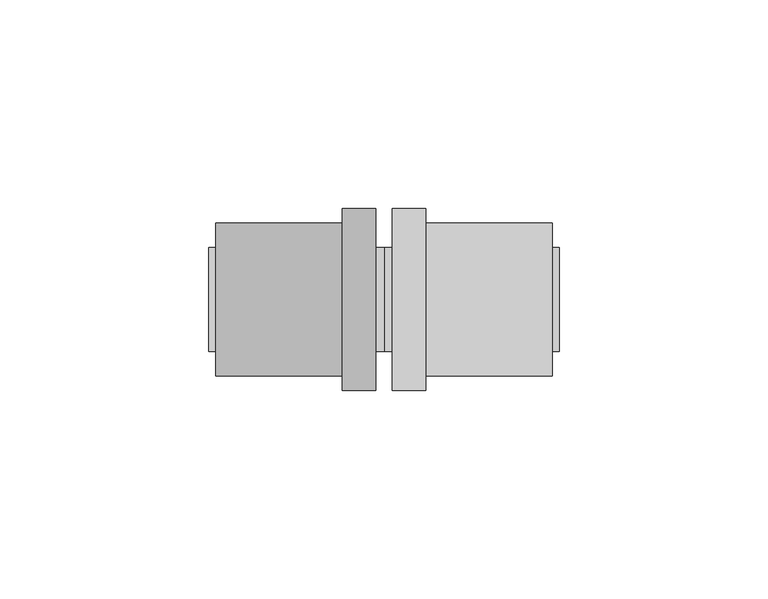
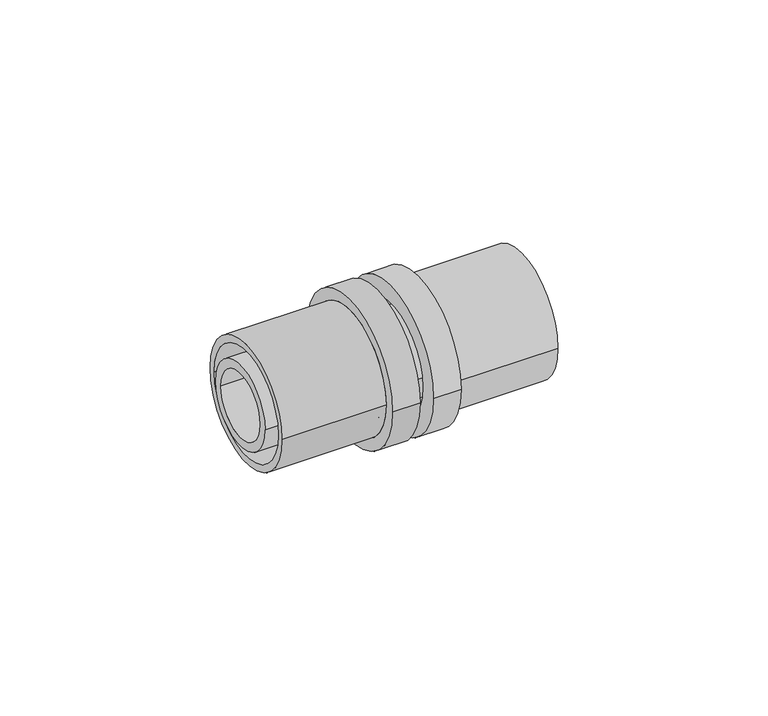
"""IFC4 building model written with IfcOpenShell, lengths in millimetres: pipe fitting geometry, FASTLOC_Coupling equal EX+ : FSL C EX AT."""

import ifcopenshell
import ifcopenshell.guid

model = None  # the IFC model being written
_history = None  # IfcOwnerHistory: only IFC2X3 demands one
_inside = {}  # id of a spatial element -> (the spatial element, [elements in it])
_under = {}  # id of a project, library or spatial element -> (it, [spatial elements below it])
_declared = {}  # id of a project -> (the project, [libraries it declares])
_typed = {}  # id of a type object -> (the type object, [elements of that type])
_made_of = {}  # id of a material, layer set ... -> (it, [elements and type objects made of it])


def new_model(schema):
    """Start an empty IFC model of exactly this schema.

    Asked for "IFC4X3", IfcOpenShell would pick the latest addendum, in which some entities
    have other attributes; the version numbers below select the first issue.
    IFC2X3 requires an IfcOwnerHistory on every rooted entity: one is made here for all.
    """
    global model, _history
    if schema == "IFC4X3":
        model = ifcopenshell.file(schema_version=(4, 3, 0, 0))
    else:
        model = ifcopenshell.file(schema=schema)
    _inside.clear()
    _under.clear()
    _declared.clear()
    _typed.clear()
    _made_of.clear()
    _history = None
    if model.schema == "IFC2X3":
        org = make("IfcOrganization", Name="unknown")
        user = make(
            "IfcPersonAndOrganization",
            ThePerson=make("IfcPerson", FamilyName="unknown"),
            TheOrganization=org,
        )
        app = make(
            "IfcApplication",
            ApplicationDeveloper=org,
            Version="unknown",
            ApplicationFullName="unknown",
            ApplicationIdentifier="unknown",
        )
        _history = make(
            "IfcOwnerHistory",
            OwningUser=user,
            OwningApplication=app,
            ChangeAction="ADDED",
            CreationDate=0,
        )
    return model


def make(cls, **values):
    """One entity of the class cls with the attributes given. An attribute that is None is left unset."""
    return model.create_entity(
        cls, **{name: value for name, value in values.items() if value is not None}
    )


def rooted(cls, **values):
    """An entity with a GlobalId (a new one), such as an element, a storey or a relation."""
    return make(cls, GlobalId=ifcopenshell.guid.new(), OwnerHistory=_history, **values)


def si_unit(unit_type, name, prefix=None):
    """IfcSIUnit, for example si_unit("LENGTHUNIT", "METRE", prefix="MILLI")."""
    return make("IfcSIUnit", UnitType=unit_type, Prefix=prefix, Name=name)


def assignment(units):
    """IfcUnitAssignment: the units of a project."""
    return None if units is None else make("IfcUnitAssignment", Units=units)


def point(xyz):
    """IfcCartesianPoint."""
    return None if xyz is None else make("IfcCartesianPoint", Coordinates=xyz)


def direction(xyz):
    """IfcDirection."""
    return None if xyz is None else make("IfcDirection", DirectionRatios=xyz)


def frame(location, z_axis=None, x_axis=None):
    """IfcAxis2Placement3D, a coordinate frame: its origin and axes. An axis left out is left unset."""
    return make(
        "IfcAxis2Placement3D",
        Location=point(location),
        Axis=direction(z_axis),
        RefDirection=direction(x_axis),
    )


def origin():
    """The frame at (0, 0, 0) with its axes left unset."""
    return frame((0.0, 0.0, 0.0))


def place(relative_to, where):
    """IfcLocalPlacement: puts the frame where relative to a parent placement (None: the world)."""
    return make(
        "IfcLocalPlacement", PlacementRelTo=relative_to, RelativePlacement=where
    )


def context(
    kind, dimensions, precision=None, world=None, true_north=None, identifier=None
):
    """IfcGeometricRepresentationContext, for example the 3D "Model" context."""
    return make(
        "IfcGeometricRepresentationContext",
        ContextIdentifier=identifier,
        ContextType=kind,
        CoordinateSpaceDimension=dimensions,
        Precision=precision,
        WorldCoordinateSystem=world,
        TrueNorth=true_north,
    )


def project(units=None, contexts=None):
    """IfcProject with its units and contexts."""
    return rooted(
        "IfcProject",
        Name="project",
        RepresentationContexts=contexts,
        UnitsInContext=assignment(units),
    )


def spatial(cls, under=None, at=None, **own):
    """A site, building, storey or space (cls), placed at a placement, below another one or the project."""
    s = rooted(cls, ObjectPlacement=at, **own)
    if under is not None:
        _under.setdefault(under.id(), (under, []))[1].append(s)
    return s


def polyline(points):
    """IfcPolyline through the points."""
    return make("IfcPolyline", Points=[point(p) for p in points])


def circle_curve(where, radius):
    """IfcCircle in the frame where."""
    return make("IfcCircle", Position=where, Radius=radius)


def shape(context_of_items, identifier, shape_type, items):
    """IfcShapeRepresentation: the items that make up one representation, for example the "Body"."""
    return make(
        "IfcShapeRepresentation",
        ContextOfItems=context_of_items,
        RepresentationIdentifier=identifier,
        RepresentationType=shape_type,
        Items=items,
    )


def source(mapping_origin, context_of_items, identifier, shape_type, items):
    """IfcRepresentationMap: a shape defined once, which mapped items show again and again."""
    return make(
        "IfcRepresentationMap",
        MappingOrigin=mapping_origin,
        MappedRepresentation=shape(context_of_items, identifier, shape_type, items),
    )


def transform(
    local_origin,
    x_axis=None,
    y_axis=None,
    z_axis=None,
    scale=None,
    scale2=None,
    scale3=None,
    uniform=True,
):
    """IfcCartesianTransformationOperator3D, or its non-uniform kind. x_axis, y_axis, z_axis: its Axis1, 2, 3."""
    if uniform:
        return make(
            "IfcCartesianTransformationOperator3D",
            Axis1=direction(x_axis),
            Axis2=direction(y_axis),
            LocalOrigin=point(local_origin),
            Scale=scale,
            Axis3=direction(z_axis),
        )
    return make(
        "IfcCartesianTransformationOperator3DnonUniform",
        Axis1=direction(x_axis),
        Axis2=direction(y_axis),
        LocalOrigin=point(local_origin),
        Scale=scale,
        Axis3=direction(z_axis),
        Scale2=scale2,
        Scale3=scale3,
    )


def mapped(mapping_source, mapping_target):
    """IfcMappedItem: shows the shape of a source again, moved by a transform."""
    return make(
        "IfcMappedItem", MappingSource=mapping_source, MappingTarget=mapping_target
    )


def made_of(thing, what):
    """Note that an element or type object is made of a material, layer set ...; save() writes the relation."""
    if what is not None:
        _made_of.setdefault(what.id(), (what, []))[1].append(thing)
    return thing


def element(
    cls,
    number,
    at=None,
    inside=None,
    cuts=None,
    type_object=None,
    material=None,
    context=None,
    identifier="Body",
    shape_type=None,
    held_by="IfcProductDefinitionShape",
    body=None,
    shapes=None,
    **own,
):
    """One element of the class cls, such as IfcWall. Its Tag is "e" and its number.

    at: its placement. inside: the storey or other place that contains it. cuts: it is an
    opening in that element (IfcRelVoidsElement). A single representation is given by context,
    identifier, shape_type and body (its items); several are given by shapes. held_by: the class
    of the entity that holds the representations. save() writes the other relations.
    """
    e = rooted(cls, Tag="e%d" % number, ObjectPlacement=at, **own)
    if body is not None:
        shapes = [shape(context, identifier, shape_type, body)]
    if shapes is not None:
        e.Representation = make(held_by, Representations=shapes)
    if inside is not None:
        _inside.setdefault(inside.id(), (inside, []))[1].append(e)
    if cuts is not None:
        rooted(
            "IfcRelVoidsElement", RelatingBuildingElement=cuts, RelatedOpeningElement=e
        )
    if type_object is not None:
        _typed.setdefault(type_object.id(), (type_object, []))[1].append(e)
    return made_of(e, material)


def aggregate(whole, parts):
    """IfcRelAggregates: a whole, such as a stair, and the parts it consists of."""
    return rooted("IfcRelAggregates", RelatingObject=whole, RelatedObjects=parts)


def save(model, path):
    """Write the relations noted so far, then the file.

    IfcRelAggregates (storeys below a building ...), IfcRelContainedInSpatialStructure (elements
    in a storey), IfcRelDefinesByType, IfcRelAssociatesMaterial and IfcRelDeclares: one each for
    every whole, place, type object, material and project.
    """
    for whole, parts in _under.values():
        aggregate(whole, parts)
    for where, things in _inside.values():
        rooted(
            "IfcRelContainedInSpatialStructure",
            RelatedElements=things,
            RelatingStructure=where,
        )
    for kind, things in _typed.values():
        rooted("IfcRelDefinesByType", RelatedObjects=things, RelatingType=kind)
    for what, things in _made_of.values():
        rooted("IfcRelAssociatesMaterial", RelatedObjects=things, RelatingMaterial=what)
    for by, libraries in _declared.values():
        rooted("IfcRelDeclares", RelatingContext=by, RelatedDefinitions=libraries)
    model.write(path)


def plane_surface(at):
    """IfcPlane: the flat surface through the origin of the frame at, square to its z axis."""
    return make("IfcPlane", Position=at)


def cylinder_surface(at, radius):
    """IfcCylindricalSurface: all points at the distance radius from the z axis of the frame at."""
    return make("IfcCylindricalSurface", Position=at, Radius=radius)


def revolved_surface(curve, axis_point, axis_direction):
    """IfcSurfaceOfRevolution: the curve turned about the line through axis_point along axis_direction."""
    return make(
        "IfcSurfaceOfRevolution",
        SweptCurve=make("IfcArbitraryOpenProfileDef", ProfileType="CURVE", Curve=curve),
        AxisPosition=make("IfcAxis1Placement", Location=point(axis_point), Axis=direction(axis_direction)),
    )


def advanced_brep(points, edges, surfaces, faces):
    """IfcAdvancedBrep: a solid bounded by faces that lie on surfaces and meet in shared edges.

    An edge is (start, end): straight between two places in points (the first is 0);
    or (start, end, curve); or (start, end, curve, False) where it runs against its curve.
    A face is (place in surfaces, loops), or (place, loops, False) where it looks against
    its surface's normal. A loop lists edges by number (the first is 1), with a minus sign
    where the edge is run from its end to its start. The first loop is the outer one.
    """
    corners = [point(p) for p in points]
    vertices = [make("IfcVertexPoint", VertexGeometry=c) for c in corners]
    made = []
    for start, end, *more in edges:
        made.append(
            make(
                "IfcEdgeCurve",
                EdgeStart=vertices[start],
                EdgeEnd=vertices[end],
                EdgeGeometry=more[0] if more else make("IfcPolyline", Points=[corners[start], corners[end]]),
                SameSense=more[1] if len(more) > 1 else True,
            )
        )
    hull = []
    for where, loops, *sense in faces:
        bounds = []
        for j, loop in enumerate(loops):
            ring = [make("IfcOrientedEdge", EdgeElement=made[abs(k) - 1], Orientation=k > 0) for k in loop]
            bounds.append(
                make(
                    "IfcFaceOuterBound" if j == 0 else "IfcFaceBound",
                    Bound=make("IfcEdgeLoop", EdgeList=ring),
                    Orientation=True,
                )
            )
        hull.append(make("IfcAdvancedFace", Bounds=bounds, FaceSurface=surfaces[where], SameSense=sense[0] if sense else True))
    return make("IfcAdvancedBrep", Outer=make("IfcClosedShell", CfsFaces=hull))


def pipe_fitting_8464d15c(model_context):
    return source(origin(), model_context, "Body", "AdvancedBrep", [
        advanced_brep(
        [(10.0, 21.8, 0.0), (10.0, -21.8, 0.0), (2.0, -21.8, 0.0), (2.0, 21.8, 0.0), (40.3, 18.35, 0.0), (40.3, -18.35, 0.0), (10.0, -18.35, 0.0), (10.0, 18.35, 0.0), (2.0, 16.2, 0.0), (2.0, -16.2, 0.0), (40.3, -16.2, 0.0), (40.3, 16.2, 0.0)],
        [
            (0, 1, circle_curve(frame((10.0, 0.0, 0.0), z_axis=(-1.0, 0.0, 0.0), x_axis=(0.0, -1.0, 0.0)), 21.8)),
            (1, 2),
            (2, 3, circle_curve(frame((2.0, 0.0, 0.0), z_axis=(1.0, 0.0, 0.0), x_axis=(0.0, -1.0, 0.0)), 21.8)),
            (3, 0),
            (4, 5, circle_curve(frame((40.3, 0.0, 0.0), z_axis=(-1.0, 0.0, 0.0), x_axis=(0.0, -1.0, 0.0)), 18.35)),
            (5, 6),
            (6, 7, circle_curve(frame((10.0, 0.0, 0.0), z_axis=(1.0, 0.0, 0.0), x_axis=(0.0, -1.0, 0.0)), 18.35)),
            (7, 4),
            (8, 9, circle_curve(frame((2.0, 0.0, 0.0), z_axis=(-1.0, 0.0, 0.0), x_axis=(0.0, -1.0, 0.0)), 16.2)),
            (9, 10),
            (10, 11, circle_curve(frame((40.3, 0.0, 0.0), z_axis=(1.0, 0.0, 0.0), x_axis=(0.0, -1.0, 0.0)), 16.2)),
            (11, 8),
            (1, 0, circle_curve(frame((10.0, 0.0, 0.0), z_axis=(-1.0, 0.0, 0.0), x_axis=(0.0, 1.0, 0.0)), 21.8)),
            (3, 2, circle_curve(frame((2.0, 0.0, 0.0), z_axis=(1.0, 0.0, 0.0), x_axis=(0.0, 1.0, 0.0)), 21.8)),
            (6, 7, circle_curve(frame((10.0, 0.0, 0.0), z_axis=(-1.0, 0.0, 0.0), x_axis=(0.0, 1.0, 0.0)), 18.35)),
            (5, 4, circle_curve(frame((40.3, 0.0, 0.0), z_axis=(-1.0, 0.0, 0.0), x_axis=(0.0, 1.0, 0.0)), 18.35)),
            (10, 11, circle_curve(frame((40.3, 0.0, 0.0), z_axis=(-1.0, 0.0, 0.0), x_axis=(0.0, 1.0, 0.0)), 16.2)),
            (9, 8, circle_curve(frame((2.0, 0.0, 0.0), z_axis=(-1.0, 0.0, 0.0), x_axis=(0.0, 1.0, 0.0)), 16.2)),
        ],
        [
            cylinder_surface(frame((2.0, 0.0, 0.0), z_axis=(1.0, 0.0, 0.0), x_axis=(0.0, -1.0, 0.0)), 21.8),
            cylinder_surface(frame((2.0, 0.0, 0.0), z_axis=(1.0, 0.0, 0.0), x_axis=(0.0, -1.0, 0.0)), 18.35),
            revolved_surface(polyline([(40.3, -16.2, 0.0), (2.0, -16.2, 0.0)]), (2.0, 0.0, 0.0), (1.0, 0.0, 0.0)),
            cylinder_surface(frame((2.0, 0.0, 0.0), z_axis=(1.0, 0.0, 0.0), x_axis=(0.0, 1.0, 0.0)), 21.8),
            plane_surface(frame((10.0, 0.0, 0.0), z_axis=(1.0, 0.0, 0.0), x_axis=(0.0, 1.0, 0.0))),
            cylinder_surface(frame((2.0, 0.0, 0.0), z_axis=(1.0, 0.0, 0.0), x_axis=(0.0, 1.0, 0.0)), 18.35),
            plane_surface(frame((40.3, 0.0, 0.0), z_axis=(1.0, 0.0, 0.0), x_axis=(0.0, 1.0, 0.0))),
            revolved_surface(polyline([(40.3, 16.2, 0.0), (2.0, 16.2, 0.0)]), (2.0, 0.0, 0.0), (1.0, 0.0, 0.0)),
            plane_surface(frame((2.0, 0.0, 0.0), z_axis=(-1.0, 0.0, 0.0), x_axis=(0.0, 1.0, 0.0))),
        ],
        [
            (0, [[1, 2, 3, 4]]),
            (1, [[5, 6, 7, 8]]),
            (2, [[9, 10, 11, 12]]),
            (3, [[13, -4, 14, -2]]),
            (4, [[-13, -1], [15, -7]]),
            (5, [[16, -8, -15, -6]]),
            (6, [[-16, -5], [17, -11]]),
            (7, [[18, -12, -17, -10]]),
            (8, [[-14, -3], [-18, -9]]),
        ],
    ),
        advanced_brep(
        [(-10.0, -21.8, 0.0), (-10.0, 21.8, 0.0), (-2.0, 21.8, 0.0), (-2.0, -21.8, 0.0), (-40.3, -18.35, 0.0), (-40.3, 18.35, 0.0), (-10.0, 18.35, 0.0), (-10.0, -18.35, 0.0), (-2.0, -16.2, 0.0), (-2.0, 16.2, 0.0), (-40.3, 16.2, 0.0), (-40.3, -16.2, 0.0)],
        [
            (0, 1, circle_curve(frame((-10.0, 0.0, 0.0), z_axis=(1.0, 0.0, 0.0), x_axis=(0.0, 1.0, 0.0)), 21.8)),
            (1, 2),
            (2, 3, circle_curve(frame((-2.0, 0.0, 0.0), z_axis=(-1.0, 0.0, 0.0), x_axis=(0.0, 1.0, 0.0)), 21.8)),
            (3, 0),
            (4, 5, circle_curve(frame((-40.3, 0.0, 0.0), z_axis=(1.0, 0.0, 0.0), x_axis=(0.0, 1.0, 0.0)), 18.35)),
            (5, 6),
            (6, 7, circle_curve(frame((-10.0, 0.0, 0.0), z_axis=(-1.0, 0.0, 0.0), x_axis=(0.0, 1.0, 0.0)), 18.35)),
            (7, 4),
            (8, 9, circle_curve(frame((-2.0, 0.0, 0.0), z_axis=(1.0, 0.0, 0.0), x_axis=(0.0, 1.0, 0.0)), 16.2)),
            (9, 10),
            (10, 11, circle_curve(frame((-40.3, 0.0, 0.0), z_axis=(-1.0, 0.0, 0.0), x_axis=(0.0, 1.0, 0.0)), 16.2)),
            (11, 8),
            (1, 0, circle_curve(frame((-10.0, 0.0, 0.0), z_axis=(1.0, 0.0, 0.0), x_axis=(0.0, -1.0, 0.0)), 21.8)),
            (3, 2, circle_curve(frame((-2.0, 0.0, 0.0), z_axis=(-1.0, 0.0, 0.0), x_axis=(0.0, -1.0, 0.0)), 21.8)),
            (6, 7, circle_curve(frame((-10.0, 0.0, 0.0), z_axis=(1.0, 0.0, 0.0), x_axis=(0.0, -1.0, 0.0)), 18.35)),
            (5, 4, circle_curve(frame((-40.3, 0.0, 0.0), z_axis=(1.0, 0.0, 0.0), x_axis=(0.0, -1.0, 0.0)), 18.35)),
            (10, 11, circle_curve(frame((-40.3, 0.0, 0.0), z_axis=(1.0, 0.0, 0.0), x_axis=(0.0, -1.0, 0.0)), 16.2)),
            (9, 8, circle_curve(frame((-2.0, 0.0, 0.0), z_axis=(1.0, 0.0, 0.0), x_axis=(0.0, -1.0, 0.0)), 16.2)),
        ],
        [
            cylinder_surface(frame((-2.0, 0.0, 0.0), z_axis=(-1.0, 0.0, 0.0), x_axis=(0.0, 1.0, 0.0)), 21.8),
            cylinder_surface(frame((-2.0, 0.0, 0.0), z_axis=(-1.0, 0.0, 0.0), x_axis=(0.0, 1.0, 0.0)), 18.35),
            revolved_surface(polyline([(-40.3, 16.2, 0.0), (-2.0, 16.2, 0.0)]), (-2.0, 0.0, 0.0), (-1.0, 0.0, 0.0)),
            cylinder_surface(frame((-2.0, 0.0, 0.0), z_axis=(-1.0, 0.0, 0.0), x_axis=(0.0, -1.0, 0.0)), 21.8),
            plane_surface(frame((-10.0, 0.0, 0.0), z_axis=(-1.0, 0.0, 0.0), x_axis=(0.0, -1.0, 0.0))),
            cylinder_surface(frame((-2.0, 0.0, 0.0), z_axis=(-1.0, 0.0, 0.0), x_axis=(0.0, -1.0, 0.0)), 18.35),
            plane_surface(frame((-40.3, 0.0, 0.0), z_axis=(-1.0, 0.0, 0.0), x_axis=(0.0, -1.0, 0.0))),
            revolved_surface(polyline([(-40.3, -16.2, 0.0), (-2.0, -16.2, 0.0)]), (-2.0, 0.0, 0.0), (-1.0, 0.0, 0.0)),
            plane_surface(frame((-2.0, 0.0, 0.0), z_axis=(1.0, 0.0, 0.0), x_axis=(0.0, -1.0, 0.0))),
        ],
        [
            (0, [[1, 2, 3, 4]]),
            (1, [[5, 6, 7, 8]]),
            (2, [[9, 10, 11, 12]]),
            (3, [[13, -4, 14, -2]]),
            (4, [[-13, -1], [15, -7]]),
            (5, [[16, -8, -15, -6]]),
            (6, [[-16, -5], [17, -11]]),
            (7, [[18, -12, -17, -10]]),
            (8, [[-14, -3], [-18, -9]]),
        ],
    ),
        advanced_brep(
        [(10.0, 14.1, 0.0), (10.0, -14.1, 0.0), (7.0, -14.1, 0.0), (7.0, 14.1, 0.0), (42.0, 12.5, 0.0), (42.0, -12.5, 0.0), (10.0, -12.5, 0.0), (10.0, 12.5, 0.0), (-42.0, 9.85, 0.0), (-42.0, -9.85, 0.0), (42.0, -9.85, 0.0), (42.0, 9.85, 0.0), (-10.0, 12.5, 0.0), (-10.0, -12.5, 0.0), (-42.0, -12.5, 0.0), (-42.0, 12.5, 0.0), (-7.0, 14.1, 0.0), (-7.0, -14.1, 0.0), (-10.0, -14.1, 0.0), (-10.0, 14.1, 0.0), (0.0, 12.5, 0.0), (0.0, -12.5, 0.0), (-7.0, -12.5, 0.0), (-7.0, 12.5, 0.0), (7.0, 12.5, 0.0), (7.0, -12.5, 0.0)],
        [
            (0, 1, circle_curve(frame((10.0, 0.0, 0.0), z_axis=(-1.0, 0.0, 0.0), x_axis=(0.0, -1.0, 0.0)), 14.1)),
            (1, 2),
            (2, 3, circle_curve(frame((7.0, 0.0, 0.0), z_axis=(1.0, 0.0, 0.0), x_axis=(0.0, -1.0, 0.0)), 14.1)),
            (3, 0),
            (4, 5, circle_curve(frame((42.0, 0.0, 0.0), z_axis=(-1.0, 0.0, 0.0), x_axis=(0.0, -1.0, 0.0)), 12.5)),
            (5, 6),
            (6, 7, circle_curve(frame((10.0, 0.0, 0.0), z_axis=(1.0, 0.0, 0.0), x_axis=(0.0, -1.0, 0.0)), 12.5)),
            (7, 4),
            (8, 9, circle_curve(frame((-42.0, 0.0, 0.0), z_axis=(-1.0, 0.0, 0.0), x_axis=(0.0, -1.0, 0.0)), 9.85)),
            (9, 10),
            (10, 11, circle_curve(frame((42.0, 0.0, 0.0), z_axis=(1.0, 0.0, 0.0), x_axis=(0.0, -1.0, 0.0)), 9.85)),
            (11, 8),
            (12, 13, circle_curve(frame((-10.0, 0.0, 0.0), z_axis=(-1.0, 0.0, 0.0), x_axis=(0.0, -1.0, 0.0)), 12.5)),
            (13, 14),
            (14, 15, circle_curve(frame((-42.0, 0.0, 0.0), z_axis=(1.0, 0.0, 0.0), x_axis=(0.0, -1.0, 0.0)), 12.5)),
            (15, 12),
            (16, 17, circle_curve(frame((-7.0, 0.0, 0.0), z_axis=(-1.0, 0.0, 0.0), x_axis=(0.0, -1.0, 0.0)), 14.1)),
            (17, 18),
            (18, 19, circle_curve(frame((-10.0, 0.0, 0.0), z_axis=(1.0, 0.0, 0.0), x_axis=(0.0, -1.0, 0.0)), 14.1)),
            (19, 16),
            (20, 21, circle_curve(frame((0.0, 0.0, 0.0), z_axis=(-1.0, 0.0, 0.0), x_axis=(0.0, -1.0, 0.0)), 12.5)),
            (21, 22),
            (22, 23, circle_curve(frame((-7.0, 0.0, 0.0), z_axis=(1.0, 0.0, 0.0), x_axis=(0.0, -1.0, 0.0)), 12.5)),
            (23, 20),
            (24, 25, circle_curve(frame((7.0, 0.0, 0.0), z_axis=(-1.0, 0.0, 0.0), x_axis=(0.0, -1.0, 0.0)), 12.5)),
            (25, 21),
            (20, 24),
            (1, 0, circle_curve(frame((10.0, 0.0, 0.0), z_axis=(-1.0, 0.0, 0.0), x_axis=(0.0, 1.0, 0.0)), 14.1)),
            (3, 2, circle_curve(frame((7.0, 0.0, 0.0), z_axis=(1.0, 0.0, 0.0), x_axis=(0.0, 1.0, 0.0)), 14.1)),
            (6, 7, circle_curve(frame((10.0, 0.0, 0.0), z_axis=(-1.0, 0.0, 0.0), x_axis=(0.0, 1.0, 0.0)), 12.5)),
            (5, 4, circle_curve(frame((42.0, 0.0, 0.0), z_axis=(-1.0, 0.0, 0.0), x_axis=(0.0, 1.0, 0.0)), 12.5)),
            (10, 11, circle_curve(frame((42.0, 0.0, 0.0), z_axis=(-1.0, 0.0, 0.0), x_axis=(0.0, 1.0, 0.0)), 9.85)),
            (9, 8, circle_curve(frame((-42.0, 0.0, 0.0), z_axis=(-1.0, 0.0, 0.0), x_axis=(0.0, 1.0, 0.0)), 9.85)),
            (14, 15, circle_curve(frame((-42.0, 0.0, 0.0), z_axis=(-1.0, 0.0, 0.0), x_axis=(0.0, 1.0, 0.0)), 12.5)),
            (13, 12, circle_curve(frame((-10.0, 0.0, 0.0), z_axis=(-1.0, 0.0, 0.0), x_axis=(0.0, 1.0, 0.0)), 12.5)),
            (18, 19, circle_curve(frame((-10.0, 0.0, 0.0), z_axis=(-1.0, 0.0, 0.0), x_axis=(0.0, 1.0, 0.0)), 14.1)),
            (17, 16, circle_curve(frame((-7.0, 0.0, 0.0), z_axis=(-1.0, 0.0, 0.0), x_axis=(0.0, 1.0, 0.0)), 14.1)),
            (22, 23, circle_curve(frame((-7.0, 0.0, 0.0), z_axis=(-1.0, 0.0, 0.0), x_axis=(0.0, 1.0, 0.0)), 12.5)),
            (21, 20, circle_curve(frame((0.0, 0.0, 0.0), z_axis=(-1.0, 0.0, 0.0), x_axis=(0.0, 1.0, 0.0)), 12.5)),
            (25, 24, circle_curve(frame((7.0, 0.0, 0.0), z_axis=(-1.0, 0.0, 0.0), x_axis=(0.0, 1.0, 0.0)), 12.5)),
        ],
        [
            cylinder_surface(frame((0.0, 0.0, 0.0), z_axis=(1.0, 0.0, 0.0), x_axis=(0.0, -1.0, 0.0)), 14.1),
            cylinder_surface(frame((0.0, 0.0, 0.0), z_axis=(1.0, 0.0, 0.0), x_axis=(0.0, -1.0, 0.0)), 12.5),
            revolved_surface(polyline([(42.0, -9.85, 0.0), (-42.0, -9.85, 0.0)]), (0.0, 0.0, 0.0), (1.0, 0.0, 0.0)),
            cylinder_surface(frame((0.0, 0.0, 0.0), z_axis=(1.0, 0.0, 0.0), x_axis=(0.0, 1.0, 0.0)), 14.1),
            plane_surface(frame((10.0, 0.0, 0.0), z_axis=(1.0, 0.0, 0.0), x_axis=(0.0, 1.0, 0.0))),
            cylinder_surface(frame((0.0, 0.0, 0.0), z_axis=(1.0, 0.0, 0.0), x_axis=(0.0, 1.0, 0.0)), 12.5),
            plane_surface(frame((42.0, 0.0, 0.0), z_axis=(1.0, 0.0, 0.0), x_axis=(0.0, 1.0, 0.0))),
            revolved_surface(polyline([(42.0, 9.85, 0.0), (-42.0, 9.85, 0.0)]), (0.0, 0.0, 0.0), (1.0, 0.0, 0.0)),
            plane_surface(frame((-42.0, 0.0, 0.0), z_axis=(-1.0, 0.0, 0.0), x_axis=(0.0, 1.0, 0.0))),
            plane_surface(frame((-10.0, 0.0, 0.0), z_axis=(-1.0, 0.0, 0.0), x_axis=(0.0, 1.0, 0.0))),
            plane_surface(frame((-7.0, 0.0, 0.0), z_axis=(1.0, 0.0, 0.0), x_axis=(0.0, 1.0, 0.0))),
            plane_surface(frame((7.0, 0.0, 0.0), z_axis=(-1.0, 0.0, 0.0), x_axis=(0.0, 1.0, 0.0))),
        ],
        [
            (0, [[1, 2, 3, 4]]),
            (1, [[5, 6, 7, 8]]),
            (2, [[9, 10, 11, 12]]),
            (1, [[13, 14, 15, 16]]),
            (0, [[17, 18, 19, 20]]),
            (1, [[21, 22, 23, 24]]),
            (1, [[25, 26, -21, 27]]),
            (3, [[28, -4, 29, -2]]),
            (4, [[-28, -1], [30, -7]]),
            (5, [[31, -8, -30, -6]]),
            (6, [[-31, -5], [32, -11]]),
            (7, [[33, -12, -32, -10]]),
            (8, [[34, -15], [-33, -9]]),
            (5, [[35, -16, -34, -14]]),
            (9, [[36, -19], [-35, -13]]),
            (3, [[37, -20, -36, -18]]),
            (10, [[-37, -17], [38, -23]]),
            (5, [[39, -24, -38, -22]]),
            (5, [[40, -27, -39, -26]]),
            (11, [[-29, -3], [-40, -25]]),
        ],
    ),
    ])


if __name__ == "__main__":
    model = new_model("IFC4")
    model_context = context("Model", 3, world=origin())
    ifc_project = project(units=[si_unit("LENGTHUNIT", "METRE", prefix="MILLI")], contexts=[model_context])
    site = spatial("IfcSite", under=ifc_project)
    building = spatial("IfcBuilding", under=site)
    placement = place(None, origin())
    pipe_fitting_shape = pipe_fitting_8464d15c(model_context)
    element("IfcPipeFitting", 1, ObjectType="FASTLOC_Coupling equal EX+ : FSL C EX AT", at=placement, inside=building, context=model_context, shape_type="MappedRepresentation", body=[
        mapped(pipe_fitting_shape, transform((0.0, 0.0, 0.0), x_axis=(1.0, 0.0, 0.0), y_axis=(0.0, 1.0, 0.0), z_axis=(0.0, 0.0, 1.0))),
    ])
    save(model, "model.ifc")
